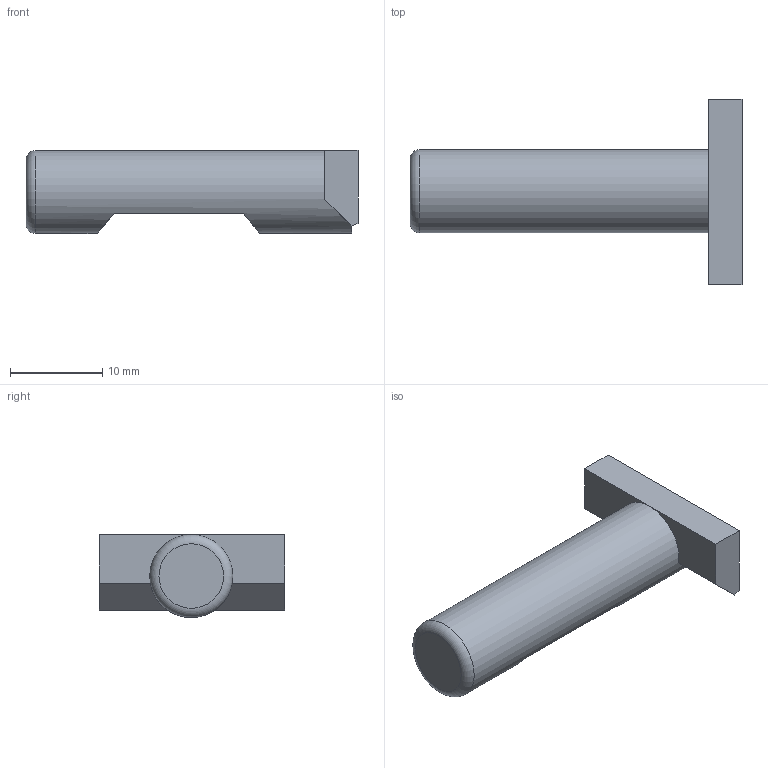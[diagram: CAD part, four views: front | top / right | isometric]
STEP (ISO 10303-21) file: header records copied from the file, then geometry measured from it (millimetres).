
FILE_DESCRIPTION(('HOOPS Exchange Step'),'2;1');
FILE_NAME('/private/var/mobile/Containers/Data/Application/BD34B793-0C88-4333-9201-EB529B1DDC1B/tmp/export/temp_export','2026-07-27T19:43:57+19:00',('mobile'),('Shapr3D Limited'),'HOOPS Exchange 2026.3','Shapr3D','Authorized');
FILE_SCHEMA( ('AP242_MANAGED_MODEL_BASED_3D_ENGINEERING_MIM_LF {1 0 10303 442 1 1 4}') );
Length unit declared in the file: millimetre
Products named in the file (1): root
Bounding box: 36 x 20.1 x 9.01 mm (x, y, z)
Volume: 2414.6 mm3; surface area: 1400 mm2
Topology: 1 solids, 1 shells, 15 faces, 35 edges, 23 vertices
Faces by surface type: plane 13, cylinder 1, torus 1
Full cylindrical faces by diameter (mm): 9 x1
Entity records: 469 total; most frequent: DIRECTION 81, CARTESIAN_POINT 75, ORIENTED_EDGE 70, EDGE_CURVE 35, AXIS2_PLACEMENT_3D 29, VERTEX_POINT 23, VECTOR 23, LINE 23
